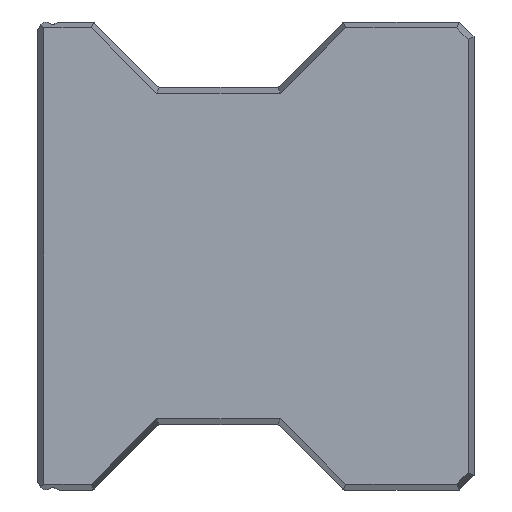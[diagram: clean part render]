
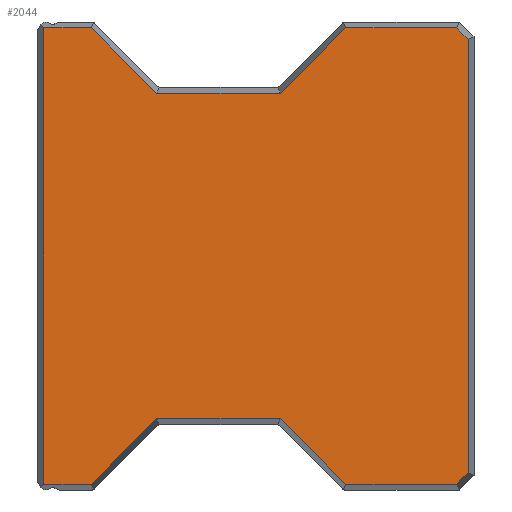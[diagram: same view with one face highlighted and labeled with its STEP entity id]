
A CAD part, left-side view. The second image highlights one B-rep face of the part: STEP entity #2044.
In plain terms, the highlighted planar face has unit normal (-1, 0, 0).
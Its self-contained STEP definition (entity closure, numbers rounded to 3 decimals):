
#380=ORIENTED_EDGE('',*,*,#882,.T.);
#381=ORIENTED_EDGE('',*,*,#797,.T.);
#382=ORIENTED_EDGE('',*,*,#883,.T.);
#383=ORIENTED_EDGE('',*,*,#884,.T.);
#384=ORIENTED_EDGE('',*,*,#785,.T.);
#385=ORIENTED_EDGE('',*,*,#776,.T.);
#386=ORIENTED_EDGE('',*,*,#885,.T.);
#387=ORIENTED_EDGE('',*,*,#770,.T.);
#388=ORIENTED_EDGE('',*,*,#886,.T.);
#389=ORIENTED_EDGE('',*,*,#887,.T.);
#390=ORIENTED_EDGE('',*,*,#888,.T.);
#391=ORIENTED_EDGE('',*,*,#889,.T.);
#392=ORIENTED_EDGE('',*,*,#789,.T.);
#393=ORIENTED_EDGE('',*,*,#794,.T.);
#770=EDGE_CURVE('',#1034,#1033,#1227,.T.);
#776=EDGE_CURVE('',#1039,#1038,#1232,.T.);
#785=EDGE_CURVE('',#1046,#1039,#1237,.T.);
#789=EDGE_CURVE('',#1049,#1048,#1240,.T.);
#794=EDGE_CURVE('',#1048,#1051,#1244,.T.);
#797=EDGE_CURVE('',#1054,#1053,#1246,.T.);
#882=EDGE_CURVE('',#1051,#1054,#1296,.T.);
#883=EDGE_CURVE('',#1053,#1122,#1297,.T.);
#884=EDGE_CURVE('',#1122,#1046,#1298,.T.);
#885=EDGE_CURVE('',#1038,#1034,#1299,.T.);
#886=EDGE_CURVE('',#1033,#1123,#1300,.T.);
#887=EDGE_CURVE('',#1123,#1124,#1301,.T.);
#888=EDGE_CURVE('',#1124,#1125,#1302,.T.);
#889=EDGE_CURVE('',#1125,#1049,#1303,.T.);
#1033=VERTEX_POINT('',#3163);
#1034=VERTEX_POINT('',#3165);
#1038=VERTEX_POINT('',#3175);
#1039=VERTEX_POINT('',#3177);
#1046=VERTEX_POINT('',#3194);
#1048=VERTEX_POINT('',#3200);
#1049=VERTEX_POINT('',#3202);
#1051=VERTEX_POINT('',#3209);
#1053=VERTEX_POINT('',#3215);
#1054=VERTEX_POINT('',#3217);
#1122=VERTEX_POINT('',#3384);
#1123=VERTEX_POINT('',#3388);
#1124=VERTEX_POINT('',#3390);
#1125=VERTEX_POINT('',#3392);
#1227=LINE('',#3164,#1377);
#1232=LINE('',#3176,#1382);
#1237=LINE('',#3193,#1387);
#1240=LINE('',#3201,#1390);
#1244=LINE('',#3210,#1394);
#1246=LINE('',#3216,#1396);
#1296=LINE('',#3382,#1446);
#1297=LINE('',#3383,#1447);
#1298=LINE('',#3385,#1448);
#1299=LINE('',#3386,#1449);
#1300=LINE('',#3387,#1450);
#1301=LINE('',#3389,#1451);
#1302=LINE('',#3391,#1452);
#1303=LINE('',#3393,#1453);
#1377=VECTOR('',#2482,1000.);
#1382=VECTOR('',#2491,1000.);
#1387=VECTOR('',#2506,1000.);
#1390=VECTOR('',#2513,1000.);
#1394=VECTOR('',#2521,1000.);
#1396=VECTOR('',#2527,1000.);
#1446=VECTOR('',#2673,1000.);
#1447=VECTOR('',#2674,1000.);
#1448=VECTOR('',#2675,1000.);
#1449=VECTOR('',#2676,1000.);
#1450=VECTOR('',#2677,1000.);
#1451=VECTOR('',#2678,1000.);
#1452=VECTOR('',#2679,1000.);
#1453=VECTOR('',#2680,1000.);
#1543=EDGE_LOOP('',(#380,#381,#382,#383,#384,#385,#386,#387,#388,#389,#390,
#391,#392,#393));
#1771=FACE_BOUND('',#1543,.T.);
#1973=PLANE('',#2240);
#2044=ADVANCED_FACE('',(#1771),#1973,.F.);
#2240=AXIS2_PLACEMENT_3D('',#3381,#2671,#2672);
#2482=DIRECTION('',(0.,-0.707,-0.707));
#2491=DIRECTION('',(0.,-0.707,0.707));
#2506=DIRECTION('',(0.,-1.,0.));
#2513=DIRECTION('',(0.,1.,0.));
#2521=DIRECTION('',(0.,0.707,-0.707));
#2527=DIRECTION('',(0.,0.707,0.707));
#2671=DIRECTION('',(1.,0.,0.));
#2672=DIRECTION('',(0.,0.,-1.));
#2673=DIRECTION('',(0.,1.,0.));
#2674=DIRECTION('',(0.,1.,0.));
#2675=DIRECTION('',(0.,0.,-1.));
#2676=DIRECTION('',(0.,-1.,0.));
#2677=DIRECTION('',(0.,-1.,0.));
#2678=DIRECTION('',(0.,-0.707,0.707));
#2679=DIRECTION('',(0.,0.,1.));
#2680=DIRECTION('',(0.,0.707,0.707));
#3163=CARTESIAN_POINT('',(0.,17.267,-30.707));
#3164=CARTESIAN_POINT('',(0.,23.987,-23.987));
#3165=CARTESIAN_POINT('',(0.,26.067,-21.907));
#3175=CARTESIAN_POINT('',(0.,42.733,-21.907));
#3176=CARTESIAN_POINT('',(0.,10.413,10.413));
#3177=CARTESIAN_POINT('',(0.,51.533,-30.707));
#3193=CARTESIAN_POINT('',(0.,0.,-30.707));
#3194=CARTESIAN_POINT('',(0.,57.907,-30.707));
#3200=CARTESIAN_POINT('',(0.,17.267,30.707));
#3201=CARTESIAN_POINT('',(0.,0.,30.707));
#3202=CARTESIAN_POINT('',(0.,2.329,30.707));
#3209=CARTESIAN_POINT('',(0.,26.067,21.907));
#3210=CARTESIAN_POINT('',(0.,23.987,23.987));
#3215=CARTESIAN_POINT('',(0.,51.533,30.707));
#3216=CARTESIAN_POINT('',(0.,10.413,-10.413));
#3217=CARTESIAN_POINT('',(0.,42.733,21.907));
#3381=CARTESIAN_POINT('',(0.,0.,0.));
#3382=CARTESIAN_POINT('',(0.,0.,21.907));
#3383=CARTESIAN_POINT('',(0.,0.,30.707));
#3384=CARTESIAN_POINT('',(0.,57.907,30.707));
#3385=CARTESIAN_POINT('',(0.,57.907,0.));
#3386=CARTESIAN_POINT('',(0.,0.,-21.907));
#3387=CARTESIAN_POINT('',(0.,0.,-30.707));
#3388=CARTESIAN_POINT('',(0.,2.329,-30.707));
#3389=CARTESIAN_POINT('',(0.,-14.189,-14.189));
#3390=CARTESIAN_POINT('',(0.,0.793,-29.171));
#3391=CARTESIAN_POINT('',(0.,0.793,0.));
#3392=CARTESIAN_POINT('',(0.,0.793,29.171));
#3393=CARTESIAN_POINT('',(0.,-14.189,14.189));
